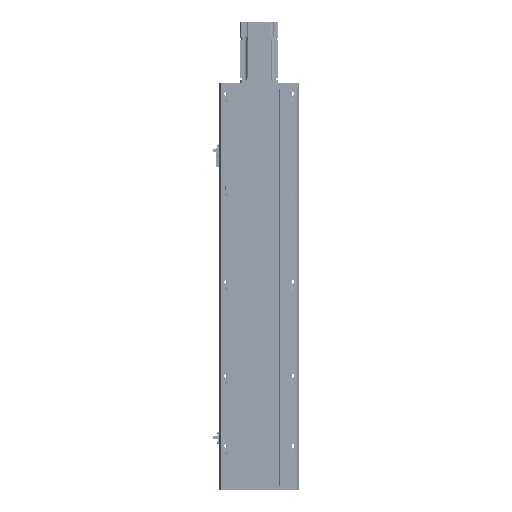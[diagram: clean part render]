
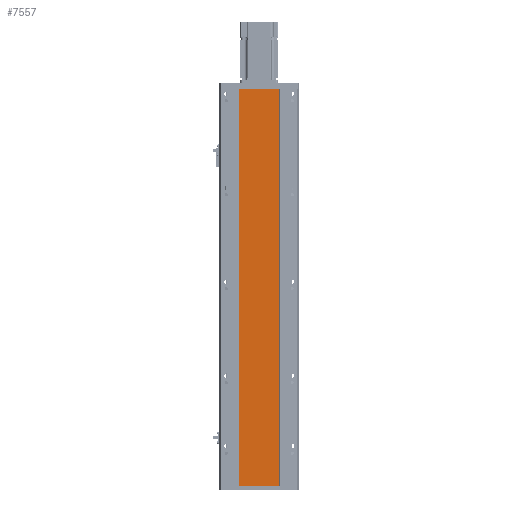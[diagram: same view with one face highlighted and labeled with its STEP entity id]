
A CAD part, front view. The second image highlights one B-rep face of the part: STEP entity #7557.
In plain terms, the highlighted planar face has unit normal (0, -1, 0).
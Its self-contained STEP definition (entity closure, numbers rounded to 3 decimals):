
#1967 = AXIS2_PLACEMENT_3D ( 'NONE', #63059, #79214, #31099 ) ;
#3081 = LINE ( 'NONE', #47871, #86161 ) ;
#6862 = DIRECTION ( 'NONE',  ( 0., 0., 1. ) ) ;
#7557 = ADVANCED_FACE ( 'NONE', ( #14307 ), #95058, .T. ) ;
#8833 = CARTESIAN_POINT ( 'NONE',  ( 42., 0., 0. ) ) ;
#11009 = CARTESIAN_POINT ( 'NONE',  ( 42., 0., -845. ) ) ;
#13202 = VERTEX_POINT ( 'NONE', #8833 ) ;
#14307 = FACE_OUTER_BOUND ( 'NONE', #39257, .T. ) ;
#23747 = EDGE_CURVE ( 'NONE', #35217, #89818, #86350, .T. ) ;
#24053 = DIRECTION ( 'NONE',  ( 1., 0., 0. ) ) ;
#25785 = DIRECTION ( 'NONE',  ( 1., 0., 0. ) ) ;
#31099 = DIRECTION ( 'NONE',  ( 0., 0., -1. ) ) ;
#35217 = VERTEX_POINT ( 'NONE', #85582 ) ;
#35318 = DIRECTION ( 'NONE',  ( 0., 0., 1. ) ) ;
#39257 = EDGE_LOOP ( 'NONE', ( #55955, #46797, #102395, #86577 ) ) ;
#40116 = VECTOR ( 'NONE', #25785, 1000. ) ;
#41046 = VECTOR ( 'NONE', #6862, 1000. ) ;
#41191 = CARTESIAN_POINT ( 'NONE',  ( 42., 0., -845. ) ) ;
#44055 = CARTESIAN_POINT ( 'NONE',  ( -42., 0., 0. ) ) ;
#46797 = ORIENTED_EDGE ( 'NONE', *, *, #23747, .F. ) ;
#47871 = CARTESIAN_POINT ( 'NONE',  ( -42., 0., -845. ) ) ;
#53635 = EDGE_CURVE ( 'NONE', #35217, #60764, #3081, .T. ) ;
#55955 = ORIENTED_EDGE ( 'NONE', *, *, #94627, .F. ) ;
#58938 = LINE ( 'NONE', #65827, #40116 ) ;
#60764 = VERTEX_POINT ( 'NONE', #41191 ) ;
#60921 = LINE ( 'NONE', #11009, #79756 ) ;
#63059 = CARTESIAN_POINT ( 'NONE',  ( -42., 0., -845. ) ) ;
#65450 = EDGE_CURVE ( 'NONE', #60764, #13202, #60921, .T. ) ;
#65827 = CARTESIAN_POINT ( 'NONE',  ( -42., 0., 0. ) ) ;
#79214 = DIRECTION ( 'NONE',  ( 0., -1., 0. ) ) ;
#79756 = VECTOR ( 'NONE', #35318, 1000. ) ;
#85582 = CARTESIAN_POINT ( 'NONE',  ( -42., 0., -845. ) ) ;
#86161 = VECTOR ( 'NONE', #24053, 1000. ) ;
#86350 = LINE ( 'NONE', #103558, #41046 ) ;
#86577 = ORIENTED_EDGE ( 'NONE', *, *, #65450, .T. ) ;
#89818 = VERTEX_POINT ( 'NONE', #44055 ) ;
#94627 = EDGE_CURVE ( 'NONE', #89818, #13202, #58938, .T. ) ;
#95058 = PLANE ( 'NONE',  #1967 ) ;
#102395 = ORIENTED_EDGE ( 'NONE', *, *, #53635, .T. ) ;
#103558 = CARTESIAN_POINT ( 'NONE',  ( -42., 0., -845. ) ) ;
